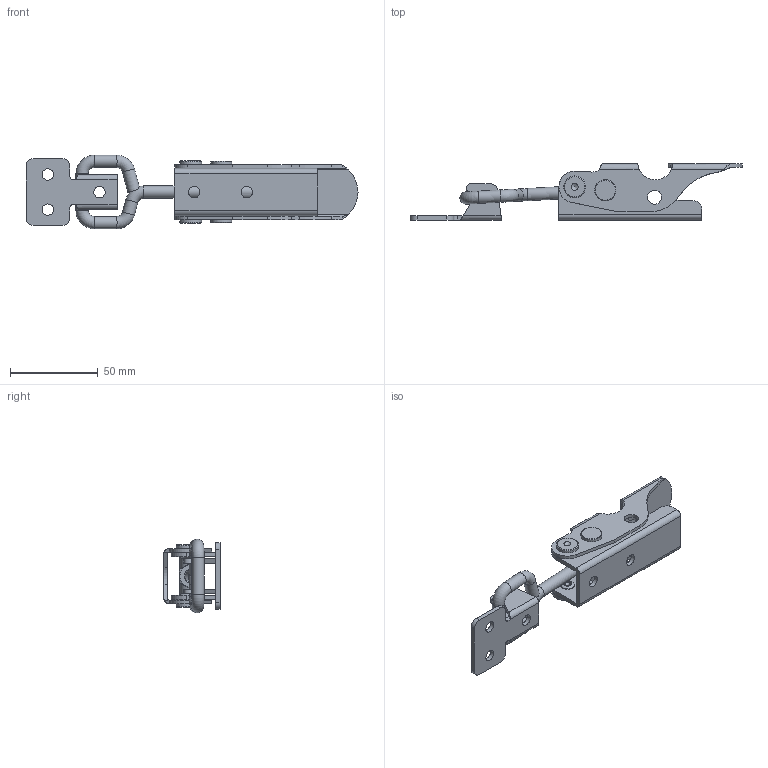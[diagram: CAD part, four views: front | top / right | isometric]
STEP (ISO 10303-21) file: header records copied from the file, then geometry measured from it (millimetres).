
FILE_DESCRIPTION(/* description */ ('STEP AP214'),/* implementation_level */ '2;1');
FILE_NAME(/* name */ 'Toggle Latch_ Stainless Steel GN 761-300-G-NI (closed-0)',/* time_stamp */ '2023-09-14T15:56:34+02:00',/* author */ ('License CC BY-ND 4.0'),/* organization */ ('CADENAS'),/* preprocessor_version */ 'ST-DEVELOPER v19.3',/* originating_system */ 'PARTsolutions',/* authorisation */ ' ');
FILE_SCHEMA (('AUTOMOTIVE_DESIGN {1 0 10303 214 3 1 1}'));
Length unit declared in the file: millimetre
Products named in the file (6): Toggle Latch, Stainless Steel GN 761-300-G-NI (closed-0); Toggle Latch GN 761-300-G-NI-3; Toggle Latch GN 761-300-G-NI (0)-6; Toggle Latch GN 761-300-G-NI (0-0)-4; Toggle Latch GN 761-300-G-NI (0)-2; Toggle Latch GN 761-300-G-NI-1
Assembly tree (5 placements, depth 2):
  Toggle Latch, Stainless Steel GN 761-300-G-NI (closed-0)
    Toggle Latch GN 761-300-G-NI-3
    Toggle Latch GN 761-300-G-NI (0)-6
    Toggle Latch GN 761-300-G-NI (0-0)-4
    Toggle Latch GN 761-300-G-NI (0)-2
    Toggle Latch GN 761-300-G-NI-1
Bounding box: 189.5 x 32.07 x 42 mm (x, y, z)
Volume: 36040.4 mm3; surface area: 31141.9 mm2
Topology: 5 solids, 5 shells, 233 faces, 626 edges, 409 vertices
Faces by surface type: plane 102, cylinder 102, cone 20, torus 9
Full cylindrical faces by diameter (mm): 1 x2, 6.5 x7, 6.55 x2, 6.647 x2, 7 x6, 8 x7, 12 x3, 12.5 x2
Entity records: 7206 total; most frequent: CARTESIAN_POINT 1402, DIRECTION 1202, ORIENTED_EDGE 1094, EDGE_CURVE 547, AXIS2_PLACEMENT_3D 467, VERTEX_POINT 390, FACE_BOUND 335, EDGE_LOOP 331
